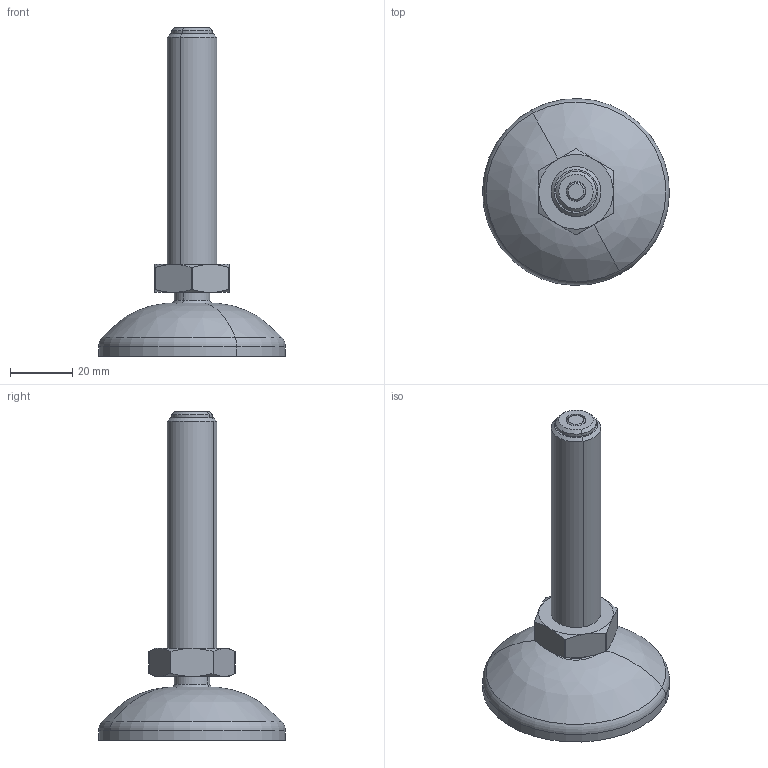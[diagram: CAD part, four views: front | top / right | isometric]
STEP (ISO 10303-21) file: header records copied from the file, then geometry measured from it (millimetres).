
FILE_DESCRIPTION(('CATIA V5 STEP Exchange'),'2;1');
FILE_NAME('X:\CODICI MOVEX\3D per clienti\Anzalone\17-04-2013\P90810PH_01.stp','2013-04-17T15:13:31+00:00',('none'),('none'),'CATIA Version 5 Release 21 SP 1 (IN-10)','CATIA V5 STEP AP203','none');
FILE_SCHEMA(('CONFIG_CONTROL_DESIGN'));
Length unit declared in the file: millimetre
Products named in the file (1): Product1
Assembly tree (3 placements, depth 2):
  Product1
    #58
    #19345
    #20726
Bounding box: 59.98 x 59.98 x 105.5 mm (x, y, z)
Volume: 36959 mm3; surface area: 24970.1 mm2
Topology: 3 solids, 5 shells, 595 faces, 1676 edges, 1098 vertices
Faces by surface type: plane 472, cylinder 30, torus 30, cone 28, revolution 19, sphere 16
Entity records: 20980 total; most frequent: CARTESIAN_POINT 7919, ORIENTED_EDGE 3344, DIRECTION 1675, EDGE_CURVE 1672, VERTEX_POINT 1098, B_SPLINE_CURVE_WITH_KNOTS 991, AXIS2_PLACEMENT_3D 668, EDGE_LOOP 610
